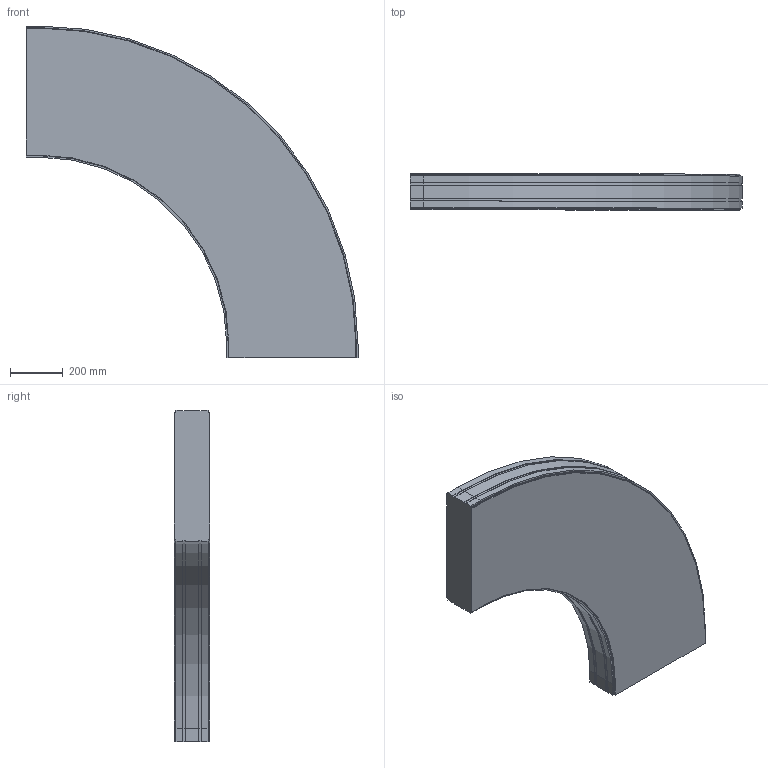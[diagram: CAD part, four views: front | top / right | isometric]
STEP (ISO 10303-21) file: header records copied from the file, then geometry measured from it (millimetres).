
FILE_DESCRIPTION (( 'STEP AP214' ), '1' );
FILE_NAME ('FS-MTC2-150-INOX horizontaalbocht.500 90°.STEP', '2017-02-08T12:40:41', ( '' ), ( '' ), 'SwSTEP 2.0', 'SolidWorks 2016', '' );
FILE_SCHEMA (( 'AUTOMOTIVE_DESIGN' ));
Length unit declared in the file: millimetre
Products named in the file (1): FS-MTC2-150-INOX horizontaalbocht.500 90°
Bounding box: 1262 x 136.5 x 1262 mm (x, y, z)
Volume: 109367540 mm3; surface area: 2217947.7 mm2
Topology: 1 solids, 1 shells, 74 faces, 216 edges, 144 vertices
Faces by surface type: plane 56, cylinder 18
Entity records: 2470 total; most frequent: CARTESIAN_POINT 435, ORIENTED_EDGE 432, DIRECTION 402, EDGE_CURVE 216, VECTOR 180, LINE 180, VERTEX_POINT 144, AXIS2_PLACEMENT_3D 111
